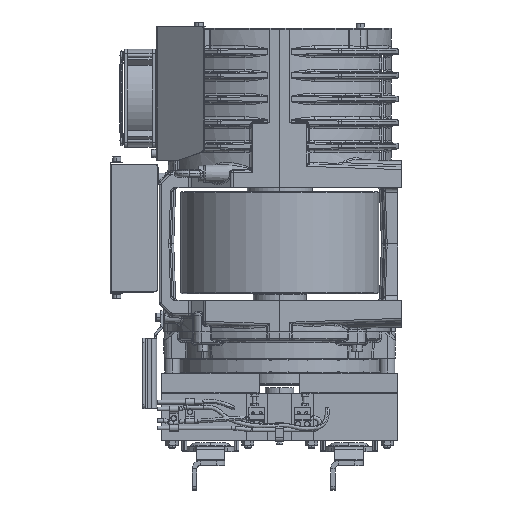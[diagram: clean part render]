
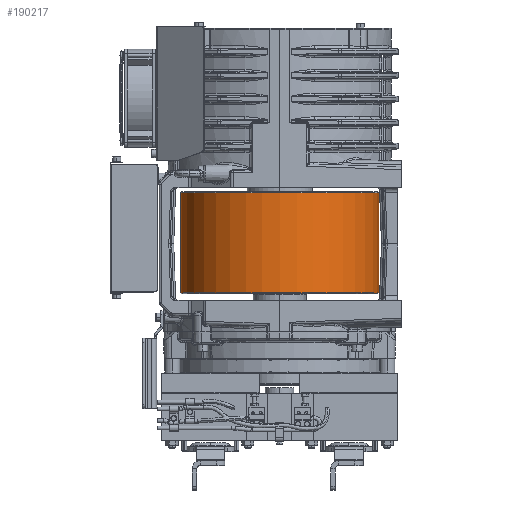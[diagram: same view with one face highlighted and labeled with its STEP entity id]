
A CAD part, left-side view. The second image highlights one B-rep face of the part: STEP entity #190217.
In plain terms, the highlighted cylindrical face has radius 121.5 mm (diameter 243 mm), a partial arc.
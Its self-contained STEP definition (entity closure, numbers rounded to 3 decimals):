
#184841=CARTESIAN_POINT('',(0.,0.,-69.));
#184842=DIRECTION('',(0.,0.,1.));
#184843=DIRECTION('',(0.,1.,0.));
#184844=AXIS2_PLACEMENT_3D('',#184841,#184842,#184843);
#184850=DIRECTION('',(0.,0.,1.));
#184851=VECTOR('',#184850,123.);
#184852=CARTESIAN_POINT('',(0.,121.5,-69.));
#184853=LINE('',#184852,#184851);
#184854=DIRECTION('',(0.,0.,1.));
#184855=VECTOR('',#184854,123.);
#184856=CARTESIAN_POINT('',(0.,-121.5,-69.));
#184857=LINE('',#184856,#184855);
#184887=CARTESIAN_POINT('',(0.,0.,54.));
#184888=DIRECTION('',(0.,0.,-1.));
#184889=DIRECTION('',(0.,-1.,0.));
#184890=AXIS2_PLACEMENT_3D('',#184887,#184888,#184889);
#188766=CARTESIAN_POINT('',(0.,-121.5,-69.));
#188767=VERTEX_POINT('',#188766);
#188768=CARTESIAN_POINT('',(0.,121.5,-69.));
#188769=VERTEX_POINT('',#188768);
#188770=CARTESIAN_POINT('',(0.,121.5,54.));
#188771=VERTEX_POINT('',#188770);
#188772=CARTESIAN_POINT('',(0.,-121.5,54.));
#188773=VERTEX_POINT('',#188772);
#190203=CARTESIAN_POINT('',(0.,0.,-77.));
#190204=DIRECTION('',(0.,0.,1.));
#190205=DIRECTION('',(0.,1.,0.));
#190206=AXIS2_PLACEMENT_3D('',#190203,#190204,#190205);
#190207=CYLINDRICAL_SURFACE('',#190206,121.5);
#190208=ORIENTED_EDGE('',*,*,#190197,.F.);
#190210=ORIENTED_EDGE('',*,*,#190209,.T.);
#190212=ORIENTED_EDGE('',*,*,#190211,.F.);
#190214=ORIENTED_EDGE('',*,*,#190213,.F.);
#190215=EDGE_LOOP('',(#190208,#190210,#190212,#190214));
#190216=FACE_OUTER_BOUND('',#190215,.F.);
#190217=ADVANCED_FACE('',(#190216),#190207,.T.);
#184845=CIRCLE('',#184844,121.5);
#184891=CIRCLE('',#184890,121.5);
#190197=EDGE_CURVE('',#188769,#188767,#184845,.T.);
#190209=EDGE_CURVE('',#188769,#188771,#184853,.T.);
#190211=EDGE_CURVE('',#188773,#188771,#184891,.T.);
#190213=EDGE_CURVE('',#188767,#188773,#184857,.T.);
